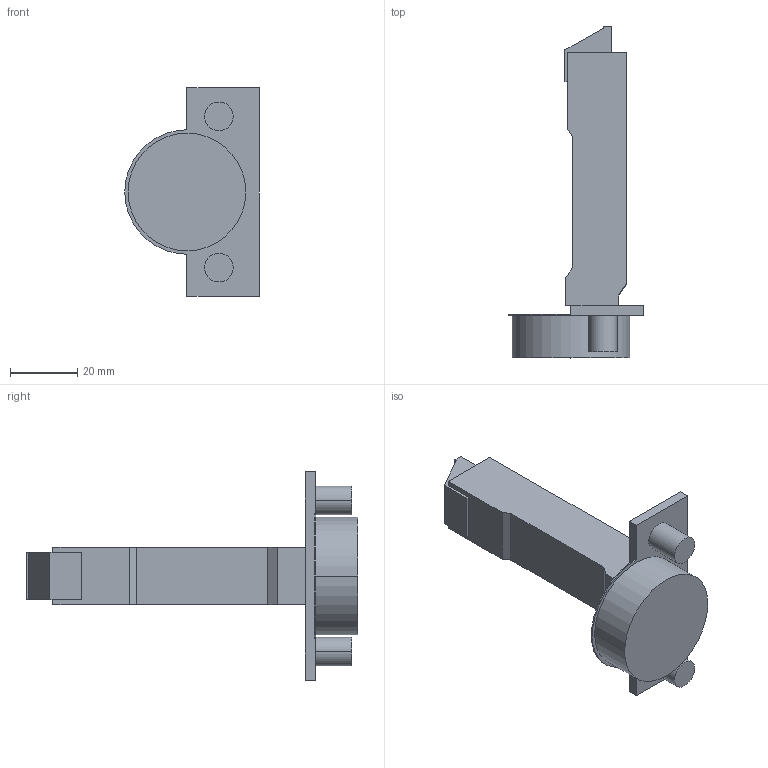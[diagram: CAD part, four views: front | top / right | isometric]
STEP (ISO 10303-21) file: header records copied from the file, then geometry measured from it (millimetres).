
FILE_DESCRIPTION (( 'STEP AP214' ), '1' );
FILE_NAME ('Scharnier T Click-on 120° B_BB, K03_Dübel.step', '2010-12-06T09:58:09', ( 'grass' ), ( '' ), 'SwSTEP 2.0', 'SolidWorks 2010', '' );
FILE_SCHEMA (( 'AUTOMOTIVE_DESIGN' ));
Length unit declared in the file: millimetre
Products named in the file (1): Scharnier T Click-on 120° B_BB, K03_Dübel
Bounding box: 40 x 98.7 x 62 mm (x, y, z)
Volume: 39568.2 mm3; surface area: 11846.7 mm2
Topology: 1 solids, 1 shells, 54 faces, 130 edges, 86 vertices
Faces by surface type: plane 37, cylinder 17
Entity records: 1606 total; most frequent: DIRECTION 274, CARTESIAN_POINT 271, ORIENTED_EDGE 260, EDGE_CURVE 130, LINE 96, VECTOR 96, AXIS2_PLACEMENT_3D 89, VERTEX_POINT 86
